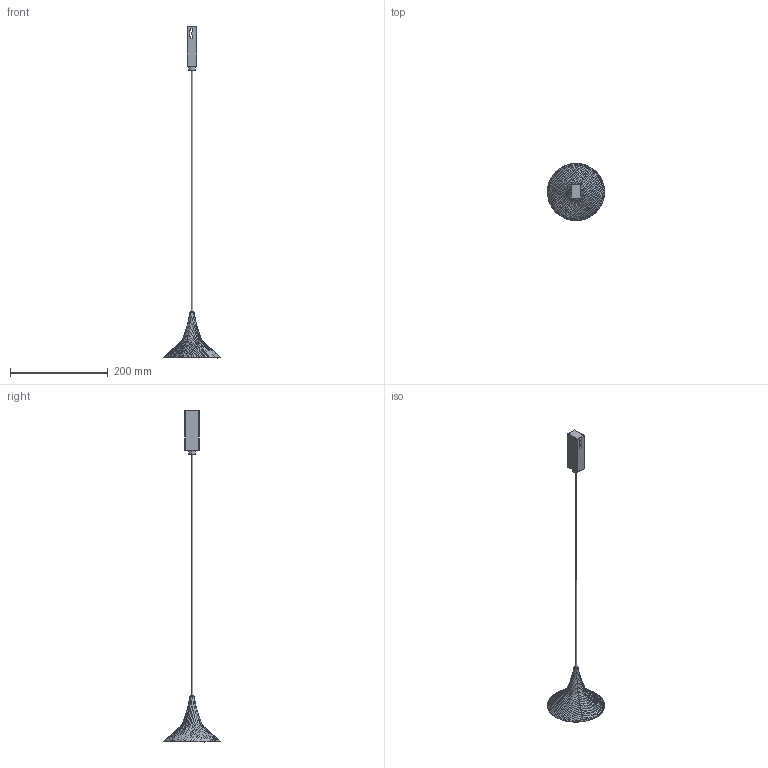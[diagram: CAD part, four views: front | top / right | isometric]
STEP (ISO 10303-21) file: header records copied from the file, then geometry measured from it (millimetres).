
FILE_DESCRIPTION(/* description */ (''),/* implementation_level */ '2;1');
FILE_NAME(/* name */ 'Sylt_Unterlinden',/* time_stamp */ '2025-11-17T14:43:18+01:00',/* author */ (''),/* organization */ (''),/* preprocessor_version */ 'ST-DEVELOPER v16.5',/* originating_system */ 'Rhino 7.37',/* authorisation */ '');
FILE_SCHEMA (('AUTOMOTIVE_DESIGN'));
Length unit declared in the file: millimetre
Products named in the file (1): Document
Bounding box: 116.92 x 116.95 x 680.6 mm (x, y, z)
Volume: 51990.6 mm3; surface area: 47901.8 mm2
Topology: 3 solids, 7 shells, 174 faces, 430 edges, 262 vertices
Faces by surface type: bspline 118, plane 30, cylinder 26
Entity records: 28016 total; most frequent: CARTESIAN_POINT 25319, ORIENTED_EDGE 836, EDGE_CURVE 426, B_SPLINE_CURVE_WITH_KNOTS 280, VERTEX_POINT 262, EDGE_LOOP 181, ADVANCED_FACE 174, FACE_OUTER_BOUND 174
